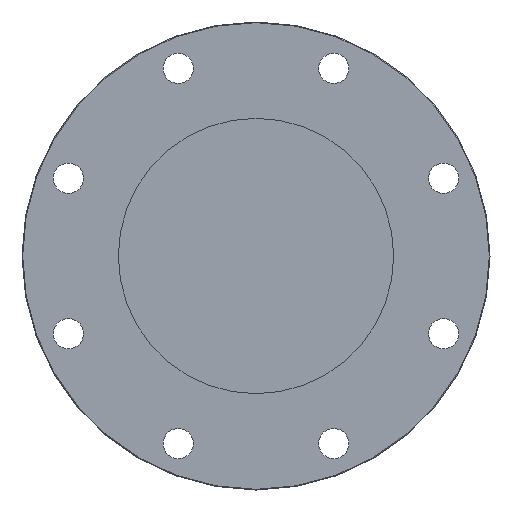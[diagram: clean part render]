
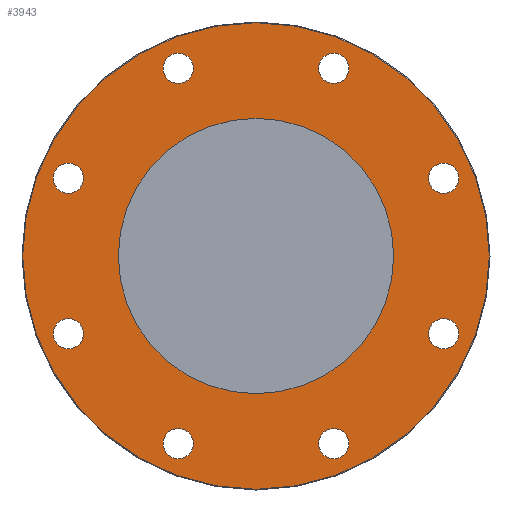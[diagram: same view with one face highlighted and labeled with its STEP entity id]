
A CAD part, left-side view. The second image highlights one B-rep face of the part: STEP entity #3943.
In plain terms, the highlighted planar face has unit normal (-1, 0, 0).
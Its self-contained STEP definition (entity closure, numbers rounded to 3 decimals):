
#140=CIRCLE('',#4178,11.);
#141=CIRCLE('',#4179,11.);
#143=CIRCLE('',#4183,11.);
#144=CIRCLE('',#4184,11.);
#146=CIRCLE('',#4188,11.);
#147=CIRCLE('',#4189,11.);
#149=CIRCLE('',#4193,11.);
#150=CIRCLE('',#4194,11.);
#152=CIRCLE('',#4198,11.);
#153=CIRCLE('',#4199,11.);
#155=CIRCLE('',#4203,11.);
#156=CIRCLE('',#4204,11.);
#158=CIRCLE('',#4208,11.);
#159=CIRCLE('',#4209,11.);
#161=CIRCLE('',#4213,11.);
#162=CIRCLE('',#4214,11.);
#165=CIRCLE('',#4218,169.5);
#166=CIRCLE('',#4220,100.);
#954=FACE_BOUND('',#1420,.T.);
#955=FACE_BOUND('',#1421,.T.);
#956=FACE_BOUND('',#1422,.T.);
#957=FACE_BOUND('',#1423,.T.);
#958=FACE_BOUND('',#1424,.T.);
#959=FACE_BOUND('',#1425,.T.);
#960=FACE_BOUND('',#1426,.T.);
#961=FACE_BOUND('',#1427,.T.);
#962=FACE_BOUND('',#1428,.T.);
#1170=FACE_OUTER_BOUND('',#1419,.T.);
#1419=EDGE_LOOP('',(#3534));
#1420=EDGE_LOOP('',(#3535,#3536));
#1421=EDGE_LOOP('',(#3537,#3538));
#1422=EDGE_LOOP('',(#3539,#3540));
#1423=EDGE_LOOP('',(#3541,#3542));
#1424=EDGE_LOOP('',(#3543,#3544));
#1425=EDGE_LOOP('',(#3545,#3546));
#1426=EDGE_LOOP('',(#3547,#3548));
#1427=EDGE_LOOP('',(#3549,#3550));
#1428=EDGE_LOOP('',(#3551));
#1889=VERTEX_POINT('',#7182);
#1890=VERTEX_POINT('',#7183);
#1892=VERTEX_POINT('',#7192);
#1893=VERTEX_POINT('',#7193);
#1895=VERTEX_POINT('',#7202);
#1896=VERTEX_POINT('',#7203);
#1898=VERTEX_POINT('',#7212);
#1899=VERTEX_POINT('',#7213);
#1901=VERTEX_POINT('',#7222);
#1902=VERTEX_POINT('',#7223);
#1904=VERTEX_POINT('',#7232);
#1905=VERTEX_POINT('',#7233);
#1907=VERTEX_POINT('',#7242);
#1908=VERTEX_POINT('',#7243);
#1910=VERTEX_POINT('',#7252);
#1911=VERTEX_POINT('',#7253);
#1914=VERTEX_POINT('',#7262);
#1915=VERTEX_POINT('',#7266);
#2426=EDGE_CURVE('',#1889,#1890,#140,.T.);
#2427=EDGE_CURVE('',#1890,#1889,#141,.T.);
#2431=EDGE_CURVE('',#1892,#1893,#143,.T.);
#2432=EDGE_CURVE('',#1893,#1892,#144,.T.);
#2436=EDGE_CURVE('',#1895,#1896,#146,.T.);
#2437=EDGE_CURVE('',#1896,#1895,#147,.T.);
#2441=EDGE_CURVE('',#1898,#1899,#149,.T.);
#2442=EDGE_CURVE('',#1899,#1898,#150,.T.);
#2446=EDGE_CURVE('',#1901,#1902,#152,.T.);
#2447=EDGE_CURVE('',#1902,#1901,#153,.T.);
#2451=EDGE_CURVE('',#1904,#1905,#155,.T.);
#2452=EDGE_CURVE('',#1905,#1904,#156,.T.);
#2456=EDGE_CURVE('',#1907,#1908,#158,.T.);
#2457=EDGE_CURVE('',#1908,#1907,#159,.T.);
#2461=EDGE_CURVE('',#1910,#1911,#161,.T.);
#2462=EDGE_CURVE('',#1911,#1910,#162,.T.);
#2467=EDGE_CURVE('',#1914,#1914,#165,.T.);
#2468=EDGE_CURVE('',#1915,#1915,#166,.T.);
#3534=ORIENTED_EDGE('',*,*,#2467,.F.);
#3535=ORIENTED_EDGE('',*,*,#2426,.T.);
#3536=ORIENTED_EDGE('',*,*,#2427,.T.);
#3537=ORIENTED_EDGE('',*,*,#2431,.T.);
#3538=ORIENTED_EDGE('',*,*,#2432,.T.);
#3539=ORIENTED_EDGE('',*,*,#2436,.T.);
#3540=ORIENTED_EDGE('',*,*,#2437,.T.);
#3541=ORIENTED_EDGE('',*,*,#2441,.T.);
#3542=ORIENTED_EDGE('',*,*,#2442,.T.);
#3543=ORIENTED_EDGE('',*,*,#2446,.T.);
#3544=ORIENTED_EDGE('',*,*,#2447,.T.);
#3545=ORIENTED_EDGE('',*,*,#2451,.T.);
#3546=ORIENTED_EDGE('',*,*,#2452,.T.);
#3547=ORIENTED_EDGE('',*,*,#2456,.T.);
#3548=ORIENTED_EDGE('',*,*,#2457,.T.);
#3549=ORIENTED_EDGE('',*,*,#2461,.T.);
#3550=ORIENTED_EDGE('',*,*,#2462,.T.);
#3551=ORIENTED_EDGE('',*,*,#2468,.T.);
#3721=PLANE('',#4219);
#3943=ADVANCED_FACE('',(#1170,#954,#955,#956,#957,#958,#959,#960,#961,#962),
#3721,.T.);
#4178=AXIS2_PLACEMENT_3D('',#7184,#4966,#4967);
#4179=AXIS2_PLACEMENT_3D('',#7185,#4968,#4969);
#4183=AXIS2_PLACEMENT_3D('',#7194,#4978,#4979);
#4184=AXIS2_PLACEMENT_3D('',#7195,#4980,#4981);
#4188=AXIS2_PLACEMENT_3D('',#7204,#4990,#4991);
#4189=AXIS2_PLACEMENT_3D('',#7205,#4992,#4993);
#4193=AXIS2_PLACEMENT_3D('',#7214,#5002,#5003);
#4194=AXIS2_PLACEMENT_3D('',#7215,#5004,#5005);
#4198=AXIS2_PLACEMENT_3D('',#7224,#5014,#5015);
#4199=AXIS2_PLACEMENT_3D('',#7225,#5016,#5017);
#4203=AXIS2_PLACEMENT_3D('',#7234,#5026,#5027);
#4204=AXIS2_PLACEMENT_3D('',#7235,#5028,#5029);
#4208=AXIS2_PLACEMENT_3D('',#7244,#5038,#5039);
#4209=AXIS2_PLACEMENT_3D('',#7245,#5040,#5041);
#4213=AXIS2_PLACEMENT_3D('',#7254,#5050,#5051);
#4214=AXIS2_PLACEMENT_3D('',#7255,#5052,#5053);
#4218=AXIS2_PLACEMENT_3D('',#7264,#5062,#5063);
#4219=AXIS2_PLACEMENT_3D('',#7265,#5064,#5065);
#4220=AXIS2_PLACEMENT_3D('',#7267,#5066,#5067);
#4966=DIRECTION('center_axis',(1.,0.,0.));
#4967=DIRECTION('ref_axis',(0.,0.,1.));
#4968=DIRECTION('center_axis',(1.,0.,0.));
#4969=DIRECTION('ref_axis',(0.,0.,1.));
#4978=DIRECTION('center_axis',(1.,0.,0.));
#4979=DIRECTION('ref_axis',(0.,0.,1.));
#4980=DIRECTION('center_axis',(1.,0.,0.));
#4981=DIRECTION('ref_axis',(0.,0.,1.));
#4990=DIRECTION('center_axis',(1.,0.,0.));
#4991=DIRECTION('ref_axis',(0.,0.,1.));
#4992=DIRECTION('center_axis',(1.,0.,0.));
#4993=DIRECTION('ref_axis',(0.,0.,1.));
#5002=DIRECTION('center_axis',(1.,0.,0.));
#5003=DIRECTION('ref_axis',(0.,0.,1.));
#5004=DIRECTION('center_axis',(1.,0.,0.));
#5005=DIRECTION('ref_axis',(0.,0.,1.));
#5014=DIRECTION('center_axis',(1.,0.,0.));
#5015=DIRECTION('ref_axis',(0.,0.,1.));
#5016=DIRECTION('center_axis',(1.,0.,0.));
#5017=DIRECTION('ref_axis',(0.,0.,1.));
#5026=DIRECTION('center_axis',(1.,0.,0.));
#5027=DIRECTION('ref_axis',(0.,0.,1.));
#5028=DIRECTION('center_axis',(1.,0.,0.));
#5029=DIRECTION('ref_axis',(0.,0.,1.));
#5038=DIRECTION('center_axis',(1.,0.,0.));
#5039=DIRECTION('ref_axis',(0.,0.,1.));
#5040=DIRECTION('center_axis',(1.,0.,0.));
#5041=DIRECTION('ref_axis',(0.,0.,1.));
#5050=DIRECTION('center_axis',(1.,0.,0.));
#5051=DIRECTION('ref_axis',(0.,0.,1.));
#5052=DIRECTION('center_axis',(1.,0.,0.));
#5053=DIRECTION('ref_axis',(0.,0.,1.));
#5062=DIRECTION('center_axis',(1.,0.,0.));
#5063=DIRECTION('ref_axis',(0.,-1.,0.));
#5064=DIRECTION('center_axis',(-1.,0.,0.));
#5065=DIRECTION('ref_axis',(0.,0.,1.));
#5066=DIRECTION('center_axis',(1.,0.,0.));
#5067=DIRECTION('ref_axis',(0.,0.,-1.));
#7182=CARTESIAN_POINT('',(-127.5,136.272,67.446));
#7183=CARTESIAN_POINT('',(-127.5,136.272,45.446));
#7184=CARTESIAN_POINT('Origin',(-127.5,136.272,56.446));
#7185=CARTESIAN_POINT('Origin',(-127.5,136.272,56.446));
#7192=CARTESIAN_POINT('',(-127.5,56.446,147.272));
#7193=CARTESIAN_POINT('',(-127.5,56.446,125.272));
#7194=CARTESIAN_POINT('Origin',(-127.5,56.446,136.272));
#7195=CARTESIAN_POINT('Origin',(-127.5,56.446,136.272));
#7202=CARTESIAN_POINT('',(-127.5,-56.446,147.272));
#7203=CARTESIAN_POINT('',(-127.5,-56.446,125.272));
#7204=CARTESIAN_POINT('Origin',(-127.5,-56.446,136.272));
#7205=CARTESIAN_POINT('Origin',(-127.5,-56.446,136.272));
#7212=CARTESIAN_POINT('',(-127.5,-136.272,67.446));
#7213=CARTESIAN_POINT('',(-127.5,-136.272,45.446));
#7214=CARTESIAN_POINT('Origin',(-127.5,-136.272,56.446));
#7215=CARTESIAN_POINT('Origin',(-127.5,-136.272,56.446));
#7222=CARTESIAN_POINT('',(-127.5,-136.272,-45.446));
#7223=CARTESIAN_POINT('',(-127.5,-136.272,-67.446));
#7224=CARTESIAN_POINT('Origin',(-127.5,-136.272,-56.446));
#7225=CARTESIAN_POINT('Origin',(-127.5,-136.272,-56.446));
#7232=CARTESIAN_POINT('',(-127.5,-56.446,-125.272));
#7233=CARTESIAN_POINT('',(-127.5,-56.446,-147.272));
#7234=CARTESIAN_POINT('Origin',(-127.5,-56.446,-136.272));
#7235=CARTESIAN_POINT('Origin',(-127.5,-56.446,-136.272));
#7242=CARTESIAN_POINT('',(-127.5,56.446,-125.272));
#7243=CARTESIAN_POINT('',(-127.5,56.446,-147.272));
#7244=CARTESIAN_POINT('Origin',(-127.5,56.446,-136.272));
#7245=CARTESIAN_POINT('Origin',(-127.5,56.446,-136.272));
#7252=CARTESIAN_POINT('',(-127.5,136.272,-45.446));
#7253=CARTESIAN_POINT('',(-127.5,136.272,-67.446));
#7254=CARTESIAN_POINT('Origin',(-127.5,136.272,-56.446));
#7255=CARTESIAN_POINT('Origin',(-127.5,136.272,-56.446));
#7262=CARTESIAN_POINT('',(-127.5,169.5,0.));
#7264=CARTESIAN_POINT('Origin',(-127.5,0.,0.));
#7265=CARTESIAN_POINT('Origin',(-127.5,85.,0.));
#7266=CARTESIAN_POINT('',(-127.5,0.,100.));
#7267=CARTESIAN_POINT('Origin',(-127.5,0.,0.));
